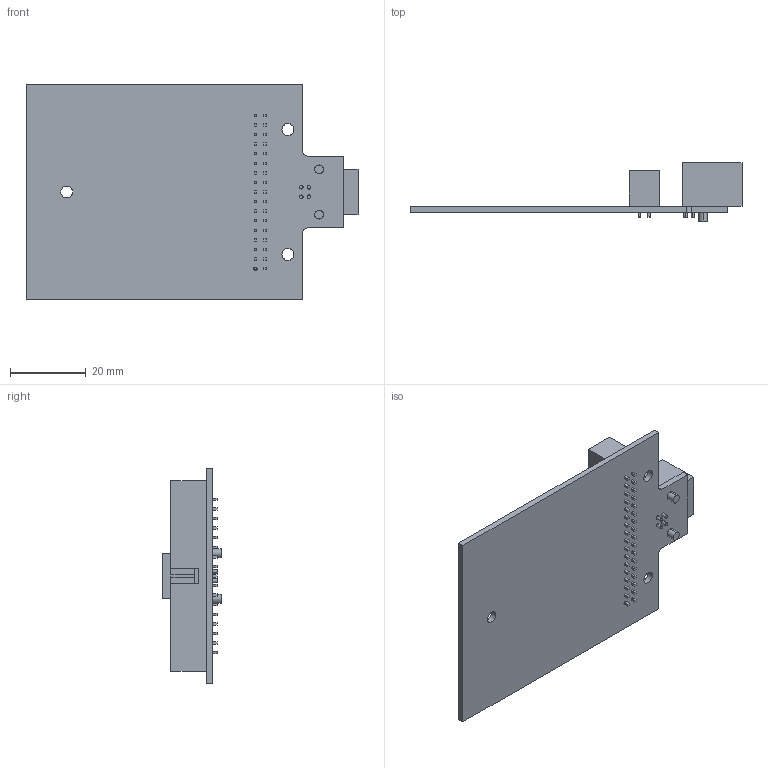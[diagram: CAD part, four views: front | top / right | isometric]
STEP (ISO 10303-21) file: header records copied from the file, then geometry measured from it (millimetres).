
FILE_DESCRIPTION((''),'2;1');
FILE_NAME('CU_USB_OEM_600X','2007-08-29T',('jpearson'),(''),'PRO/ENGINEER BY PARAMETRIC TECHNOLOGY CORPORATION, 2006080','PRO/ENGINEER BY PARAMETRIC TECHNOLOGY CORPORATION, 2006080','');
FILE_SCHEMA(('CONFIG_CONTROL_DESIGN'));
Length unit declared in the file: inch
Products named in the file (1): CU_USB_OEM_600X
Bounding box: 87.88 x 15.42 x 57.15 mm (x, y, z)
Volume: 10727.7 mm3; surface area: 12913.1 mm2
Topology: 1 solids, 1 shells, 427 faces, 1040 edges, 688 vertices
Faces by surface type: plane 399, cylinder 28
Entity records: 12362 total; most frequent: CARTESIAN_POINT 2155, ORIENTED_EDGE 2080, DIRECTION 1970, EDGE_CURVE 1040, VECTOR 964, LINE 964, VERTEX_POINT 688, EDGE_LOOP 510
